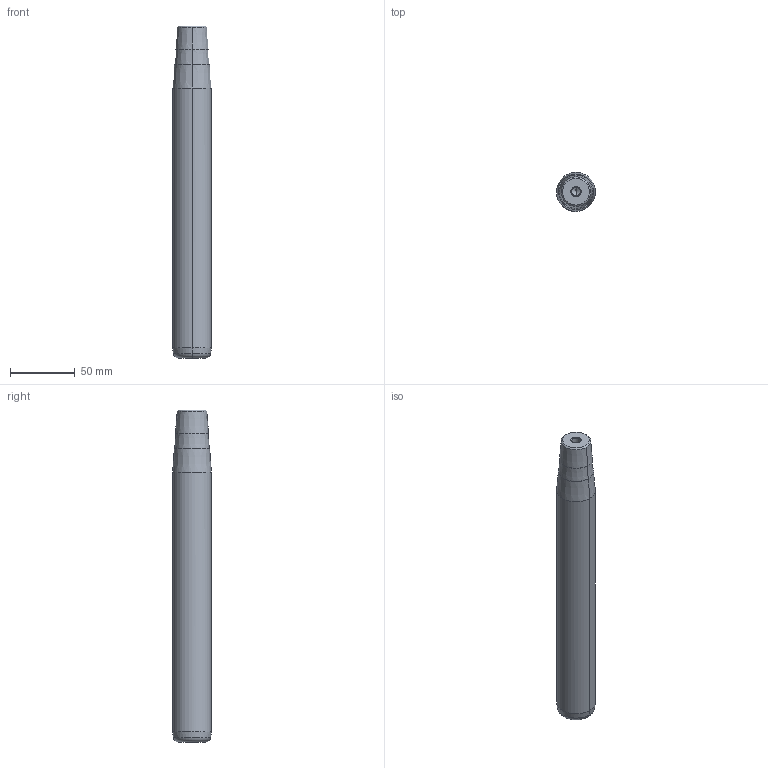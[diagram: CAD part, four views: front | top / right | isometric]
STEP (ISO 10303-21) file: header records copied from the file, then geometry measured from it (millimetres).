
FILE_DESCRIPTION(('CATIA V5 STEP Exchange'),'2;1');
FILE_NAME('C:\Users\Utente\Desktop\IO LAVORO\3D X SITO CF\X SITO\722\722-30x224x257.stp','2021-01-08T16:16:58+00:00',('none'),('none'),'CATIA Version 5 Release 20 GA (IN-10)','CATIA V5 STEP AP203','none');
FILE_SCHEMA(('CONFIG_CONTROL_DESIGN'));
Length unit declared in the file: millimetre
Products named in the file (1): 722-30x224x257
Bounding box: 30 x 30 x 257 mm (x, y, z)
Volume: 171363.9 mm3; surface area: 25637.2 mm2
Topology: 1 solids, 1 shells, 32 faces, 98 edges, 66 vertices
Faces by surface type: cone 22, cylinder 6, plane 2, torus 2
Entity records: 1166 total; most frequent: CARTESIAN_POINT 279, ORIENTED_EDGE 188, DIRECTION 148, EDGE_CURVE 94, AXIS2_PLACEMENT_3D 89, VERTEX_POINT 66, CIRCLE 56, EDGE_LOOP 34
